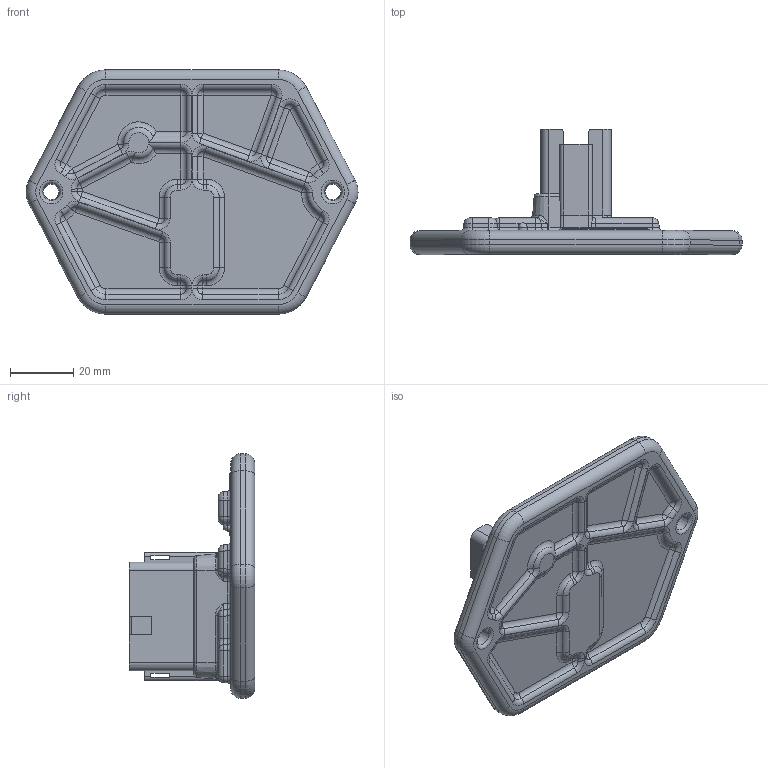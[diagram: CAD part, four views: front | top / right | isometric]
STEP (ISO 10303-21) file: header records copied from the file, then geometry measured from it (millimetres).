
FILE_DESCRIPTION (( 'STEP AP214' ), '1' );
FILE_NAME ('505004A.STEP', '2025-03-18T15:26:27', ( '' ), ( '' ), 'SwSTEP 2.0', 'SolidWorks 2024', '' );
FILE_SCHEMA (( 'AUTOMOTIVE_DESIGN' ));
Length unit declared in the file: millimetre
Products named in the file (7): 505004A; 13382PCBA; SC000353; PL000413-A-1; ATF15-12PA-MN-G; Overmold; MonoLED
Assembly tree (17 placements, depth 3):
  505004A
    13382PCBA
    MonoLED
    ATF15-12PA-MN-G
      PL000413-A-1
      SC000353  x12
    Overmold
Bounding box: 104.78 x 39.57 x 77.12 mm (x, y, z)
Volume: 57242.7 mm3; surface area: 50470 mm2
Topology: 16 solids, 16 shells, 2369 faces, 6335 edges, 3976 vertices
Faces by surface type: plane 1310, cylinder 565, bspline 278, torus 119, cone 55, sphere 42
Full cylindrical faces by diameter (mm): 1 x4, 1.58 x60, 2.6 x12, 2.9 x2, 3.2 x2, 3.76 x8
Entity records: 74096 total; most frequent: CARTESIAN_POINT 18823, ORIENTED_EDGE 11564, DIRECTION 10951, EDGE_CURVE 5782, LINE 4025, VECTOR 4025, VERTEX_POINT 3750, AXIS2_PLACEMENT_3D 3463
